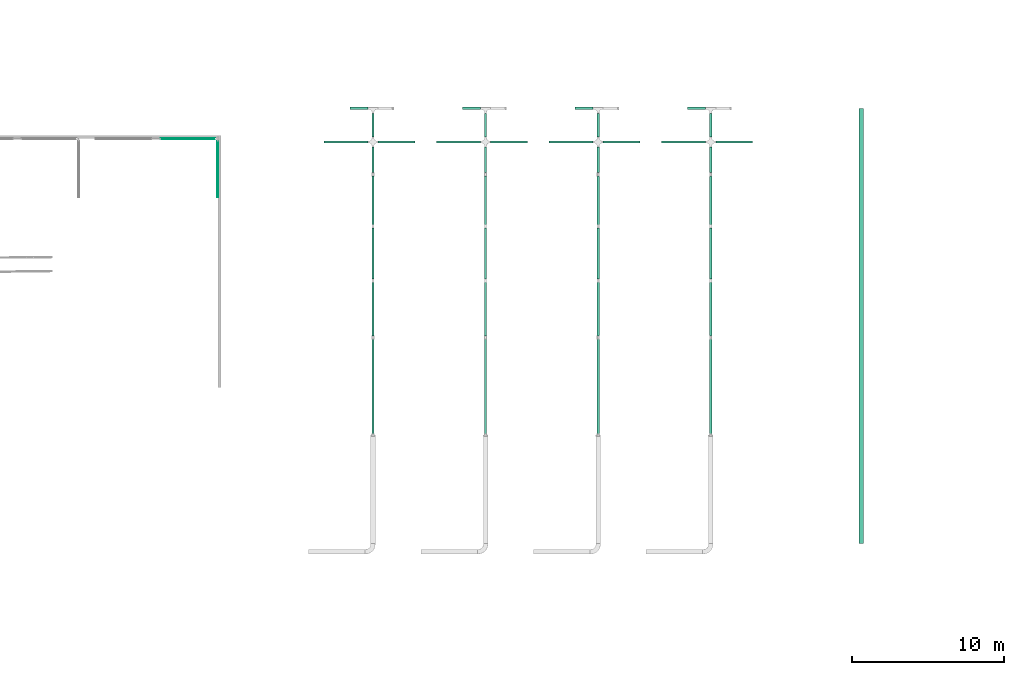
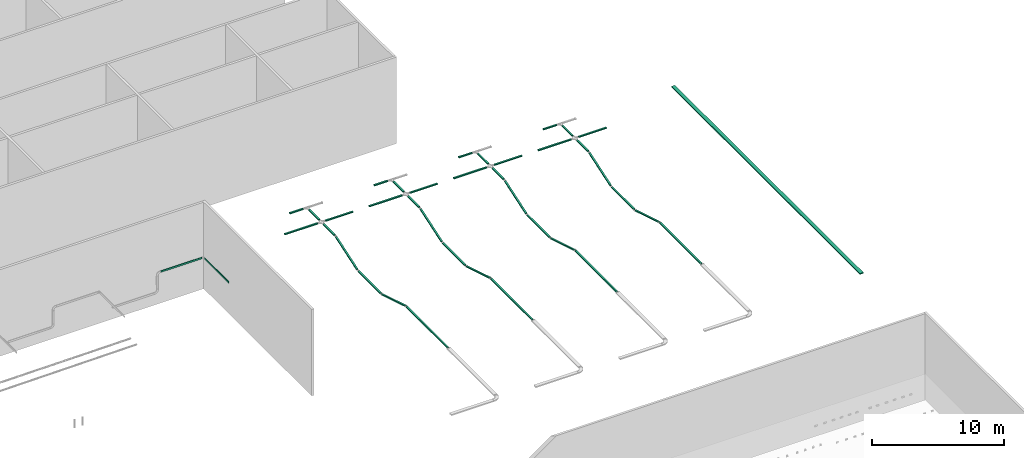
# One storey, part 13 of 197: 39 flow segments.
"""IFC2X3 building model written with IfcOpenShell, lengths in metres."""

from ifc_helpers import new_model, entity, si_unit, converted_unit, direction, frame, frame_2d, origin, origin_2d_with_axis, place, context, subcontext, project, spatial, rectangle, extrude, type_object, element, save


model = new_model("IFC2X3")

# Units and contexts
model_context = context("Model", 3, precision=1e-05, world=origin(), true_north=direction((6.123031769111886e-17, 1.0)))
body_context = subcontext(model_context, "Body", "Model", "MODEL_VIEW")
ifc_project = project(units=[si_unit("LENGTHUNIT", "METRE"), converted_unit("PLANEANGLEUNIT", "DEGREE", entity("IfcPlaneAngleMeasure", 0.017453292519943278), si_unit("PLANEANGLEUNIT", "RADIAN"), dimensions=[0, 0, 0, 0, 0, 0, 0]), si_unit("AREAUNIT", "SQUARE_METRE")], contexts=[model_context])

# Site, building, storey
site_placement = place(None, origin())
site = spatial("IfcSite", under=ifc_project, at=site_placement, Name="Default", CompositionType="ELEMENT")
building_placement = place(site_placement, origin())
building = spatial("IfcBuilding", under=site, at=building_placement, CompositionType="ELEMENT")
storey_placement = place(building_placement, origin())
storey = spatial("IfcBuildingStorey", under=building, at=storey_placement, Name="Niveau 0", CompositionType="ELEMENT", Elevation=0.0)

# Flow segments
cable_carrier_segment_type_1 = type_object("IfcCableCarrierSegmentType", Name="Chemin de câbles avec raccords:CDC CFA", PredefinedType="CABLETRAYSEGMENT")
flow_segment_1_placement = place(storey_placement, origin())
element("IfcFlowSegment", 1, at=flow_segment_1_placement, inside=storey, type_object=cable_carrier_segment_type_1, Name="Chemin de câbles avec raccords:CDC CFA", ObjectType="Chemin de câbles avec raccords:CDC CFA", context=body_context, shape_type="SweptSolid", body=[
    extrude(rectangle(XDim=6.217109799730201, YDim=0.14999999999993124, at=frame_2d((8.659739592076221e-15, 0.0), x_axis=(1.0, 0.0))), frame((-510.12398006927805, 135.57606798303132, 2.700000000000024), z_axis=(0.0, 0.0, 1.0), x_axis=(0.0, 1.0, 0.0)), (0.0, 0.0, 1.0), 0.1),
])
flow_segment_2_placement = place(storey_placement, origin())
element("IfcFlowSegment", 2, at=flow_segment_2_placement, inside=storey, type_object=cable_carrier_segment_type_1, Name="Chemin de câbles avec raccords:CDC CFA", ObjectType="Chemin de câbles avec raccords:CDC CFA", context=body_context, shape_type="SweptSolid", body=[
    extrude(rectangle(XDim=0.09999999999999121, YDim=3.6792195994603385, at=frame_2d((1.1102230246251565e-16, -2.706168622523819e-16), x_axis=(0.0, 1.0))), frame((-510.19898006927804, 140.64904768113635, 2.181483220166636), z_axis=(1.0, 0.0, 0.0), x_axis=(0.0, 0.9563047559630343, -0.29237170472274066)), (0.0, 0.0, 1.0), 0.14999999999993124),
])
flow_segment_3_placement = place(storey_placement, origin())
element("IfcFlowSegment", 3, at=flow_segment_3_placement, inside=storey, type_object=cable_carrier_segment_type_1, Name="Chemin de câbles avec raccords:CDC CFA", ObjectType="Chemin de câbles avec raccords:CDC CFA", context=body_context, shape_type="SweptSolid", body=[
    extrude(rectangle(XDim=3.3785376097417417, YDim=0.14999999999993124, at=frame_2d((1.7319479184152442e-14, 0.0), x_axis=(1.0, 0.0))), frame((-510.12398006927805, 144.30274128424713, 1.562966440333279), z_axis=(0.0, 0.0, 1.0), x_axis=(0.0, 1.0, 0.0)), (0.0, 0.0, 1.0), 0.1),
])
flow_segment_4_placement = place(storey_placement, origin())
element("IfcFlowSegment", 4, at=flow_segment_4_placement, inside=storey, type_object=cable_carrier_segment_type_1, Name="Chemin de câbles avec raccords:CDC CFA", ObjectType="Chemin de câbles avec raccords:CDC CFA", context=body_context, shape_type="SweptSolid", body=[
    extrude(rectangle(XDim=0.09999999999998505, YDim=3.3682557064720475, at=frame_2d((-1.1102230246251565e-16, -1.3530843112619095e-16), x_axis=(0.0, 1.0))), frame((-510.19898006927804, 147.79869313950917, 2.1814832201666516), z_axis=(1.0, 0.0, 0.0), x_axis=(0.0, 0.9483232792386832, 0.3173057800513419)), (0.0, 0.0, 1.0), 0.14999999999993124),
])
flow_segment_5_placement = place(storey_placement, origin())
element("IfcFlowSegment", 5, at=flow_segment_5_placement, inside=storey, type_object=cable_carrier_segment_type_1, Name="Chemin de câbles avec raccords:CDC CFA", ObjectType="Chemin de câbles avec raccords:CDC CFA", context=body_context, shape_type="SweptSolid", body=[
    extrude(rectangle(XDim=1.5359999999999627, YDim=0.14999999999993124, at=origin_2d_with_axis()), frame((-510.12398006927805, 152.72191437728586, 2.6999999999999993), z_axis=(0.0, 0.0, 1.0), x_axis=(0.0, 1.0, 0.0)), (0.0, 0.0, 1.0), 0.1),
])
flow_segment_6_placement = place(storey_placement, origin())
element("IfcFlowSegment", 6, at=flow_segment_6_placement, inside=storey, type_object=cable_carrier_segment_type_1, Name="Chemin de câbles avec raccords:CDC CFA", ObjectType="Chemin de câbles avec raccords:CDC CFA", context=body_context, shape_type="SweptSolid", body=[
    extrude(rectangle(XDim=2.409722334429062, YDim=0.15000000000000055, at=origin_2d_with_axis()), frame((-508.58411890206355, 151.61891437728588, 2.7)), (0.0, 0.0, 1.0), 0.1),
])
flow_segment_7_placement = place(storey_placement, origin())
element("IfcFlowSegment", 7, at=flow_segment_7_placement, inside=storey, type_object=cable_carrier_segment_type_1, Name="Chemin de câbles avec raccords:CDC CFA", ObjectType="Chemin de câbles avec raccords:CDC CFA", context=body_context, shape_type="SweptSolid", body=[
    extrude(rectangle(XDim=2.887277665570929, YDim=0.15000000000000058, at=frame_2d((-3.4638958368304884e-14, -1.732641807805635e-14), x_axis=(1.0, 0.0))), frame((-511.9026189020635, 151.6189143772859, 2.7)), (0.0, 0.0, 1.0), 0.1),
])
flow_segment_8_placement = place(storey_placement, origin())
element("IfcFlowSegment", 8, at=flow_segment_8_placement, inside=storey, type_object=cable_carrier_segment_type_1, Name="Chemin de câbles avec raccords:CDC CFA", ObjectType="Chemin de câbles avec raccords:CDC CFA", context=body_context, shape_type="SweptSolid", body=[
    extrude(rectangle(XDim=1.678538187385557, YDim=0.14999999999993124, at=origin_2d_with_axis()), frame((-510.12398006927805, 150.44464528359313, 2.700000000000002), z_axis=(0.0, 0.0, 1.0), x_axis=(0.0, 1.0, 0.0)), (0.0, 0.0, 1.0), 0.1),
])
flow_segment_9_placement = place(storey_placement, origin())
element("IfcFlowSegment", 9, at=flow_segment_9_placement, inside=storey, type_object=cable_carrier_segment_type_1, Name="Chemin de câbles avec raccords:CDC CFA", ObjectType="Chemin de câbles avec raccords:CDC CFA", context=body_context, shape_type="SweptSolid", body=[
    extrude(rectangle(XDim=1.1850000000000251, YDim=0.15000000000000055, at=origin_2d_with_axis()), frame((-511.05148006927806, 153.82491437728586, 2.7000000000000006), z_axis=(0.0, 0.0, 1.0), x_axis=(-1.0, 0.0, 0.0)), (0.0, 0.0, 1.0), 0.1),
])
cable_carrier_segment_type_2 = type_object("IfcCableCarrierSegmentType", Name="Chemin de câbles avec raccords:CDC CFO", PredefinedType="CABLETRAYSEGMENT")
flow_segment_10_placement = place(storey_placement, origin())
element("IfcFlowSegment", 10, at=flow_segment_10_placement, inside=storey, type_object=cable_carrier_segment_type_2, Name="Chemin de câbles avec raccords:CDC CFO", ObjectType="Chemin de câbles avec raccords:CDC CFO", context=body_context, shape_type="SweptSolid", body=[
    extrude(rectangle(XDim=6.217109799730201, YDim=0.14999999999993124, at=frame_2d((8.659739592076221e-15, 6.93056723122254e-14), x_axis=(1.0, 0.0))), frame((-502.7369800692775, 135.57606798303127, 2.700000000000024), z_axis=(0.0, 0.0, 1.0), x_axis=(0.0, 1.0, 0.0)), (0.0, 0.0, 1.0), 0.1),
])
flow_segment_11_placement = place(storey_placement, origin())
element("IfcFlowSegment", 11, at=flow_segment_11_placement, inside=storey, type_object=cable_carrier_segment_type_2, Name="Chemin de câbles avec raccords:CDC CFO", ObjectType="Chemin de câbles avec raccords:CDC CFO", context=body_context, shape_type="SweptSolid", body=[
    extrude(rectangle(XDim=0.09999999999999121, YDim=3.6792195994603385, at=frame_2d((1.1102230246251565e-16, -2.706168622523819e-16), x_axis=(0.0, 1.0))), frame((-502.81198006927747, 140.64904768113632, 2.181483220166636), z_axis=(1.0, 0.0, 0.0), x_axis=(0.0, 0.9563047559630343, -0.29237170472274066)), (0.0, 0.0, 1.0), 0.14999999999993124),
])
flow_segment_12_placement = place(storey_placement, origin())
element("IfcFlowSegment", 12, at=flow_segment_12_placement, inside=storey, type_object=cable_carrier_segment_type_2, Name="Chemin de câbles avec raccords:CDC CFO", ObjectType="Chemin de câbles avec raccords:CDC CFO", context=body_context, shape_type="SweptSolid", body=[
    extrude(rectangle(XDim=3.3785376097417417, YDim=0.14999999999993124, at=frame_2d((0.0, 6.93056723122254e-14), x_axis=(1.0, 0.0))), frame((-502.7369800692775, 144.30274128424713, 1.562966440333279), z_axis=(0.0, 0.0, 1.0), x_axis=(0.0, 1.0, 0.0)), (0.0, 0.0, 1.0), 0.1),
])
flow_segment_13_placement = place(storey_placement, origin())
element("IfcFlowSegment", 13, at=flow_segment_13_placement, inside=storey, type_object=cable_carrier_segment_type_2, Name="Chemin de câbles avec raccords:CDC CFO", ObjectType="Chemin de câbles avec raccords:CDC CFO", context=body_context, shape_type="SweptSolid", body=[
    extrude(rectangle(XDim=0.09999999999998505, YDim=3.3682557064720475, at=frame_2d((-1.1102230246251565e-16, -1.3530843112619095e-16), x_axis=(0.0, 1.0))), frame((-502.81198006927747, 147.79869313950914, 2.1814832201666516), z_axis=(1.0, 0.0, 0.0), x_axis=(0.0, 0.9483232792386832, 0.3173057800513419)), (0.0, 0.0, 1.0), 0.14999999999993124),
])
flow_segment_14_placement = place(storey_placement, origin())
element("IfcFlowSegment", 14, at=flow_segment_14_placement, inside=storey, type_object=cable_carrier_segment_type_2, Name="Chemin de câbles avec raccords:CDC CFO", ObjectType="Chemin de câbles avec raccords:CDC CFO", context=body_context, shape_type="SweptSolid", body=[
    extrude(rectangle(XDim=1.5359999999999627, YDim=0.14999999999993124, at=frame_2d((1.7319479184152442e-14, 6.93056723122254e-14), x_axis=(1.0, 0.0))), frame((-502.7369800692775, 152.72191437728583, 2.6999999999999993), z_axis=(0.0, 0.0, 1.0), x_axis=(0.0, 1.0, 0.0)), (0.0, 0.0, 1.0), 0.1),
])
flow_segment_15_placement = place(storey_placement, origin())
element("IfcFlowSegment", 15, at=flow_segment_15_placement, inside=storey, type_object=cable_carrier_segment_type_2, Name="Chemin de câbles avec raccords:CDC CFO", ObjectType="Chemin de câbles avec raccords:CDC CFO", context=body_context, shape_type="SweptSolid", body=[
    extrude(rectangle(XDim=2.409722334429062, YDim=0.15000000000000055, at=origin_2d_with_axis()), frame((-501.19711890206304, 151.61891437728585, 2.7)), (0.0, 0.0, 1.0), 0.1),
])
flow_segment_16_placement = place(storey_placement, origin())
element("IfcFlowSegment", 16, at=flow_segment_16_placement, inside=storey, type_object=cable_carrier_segment_type_2, Name="Chemin de câbles avec raccords:CDC CFO", ObjectType="Chemin de câbles avec raccords:CDC CFO", context=body_context, shape_type="SweptSolid", body=[
    extrude(rectangle(XDim=2.887277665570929, YDim=0.15000000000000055, at=frame_2d((-3.4638958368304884e-14, 0.0), x_axis=(1.0, 0.0))), frame((-504.515618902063, 151.61891437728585, 2.7)), (0.0, 0.0, 1.0), 0.1),
])
flow_segment_17_placement = place(storey_placement, origin())
element("IfcFlowSegment", 17, at=flow_segment_17_placement, inside=storey, type_object=cable_carrier_segment_type_2, Name="Chemin de câbles avec raccords:CDC CFO", ObjectType="Chemin de câbles avec raccords:CDC CFO", context=body_context, shape_type="SweptSolid", body=[
    extrude(rectangle(XDim=1.678538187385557, YDim=0.14999999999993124, at=frame_2d((0.0, 6.93056723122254e-14), x_axis=(1.0, 0.0))), frame((-502.7369800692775, 150.44464528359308, 2.700000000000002), z_axis=(0.0, 0.0, 1.0), x_axis=(0.0, 1.0, 0.0)), (0.0, 0.0, 1.0), 0.1),
])
flow_segment_18_placement = place(storey_placement, origin())
element("IfcFlowSegment", 18, at=flow_segment_18_placement, inside=storey, type_object=cable_carrier_segment_type_2, Name="Chemin de câbles avec raccords:CDC CFO", ObjectType="Chemin de câbles avec raccords:CDC CFO", context=body_context, shape_type="SweptSolid", body=[
    extrude(rectangle(XDim=1.1850000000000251, YDim=0.15000000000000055, at=frame_2d((6.927791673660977e-14, 0.0), x_axis=(1.0, 0.0))), frame((-503.66448006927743, 153.82491437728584, 2.7000000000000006), z_axis=(0.0, 0.0, 1.0), x_axis=(-1.0, 0.0, 0.0)), (0.0, 0.0, 1.0), 0.1),
])
cable_carrier_segment_type_3 = type_object("IfcCableCarrierSegmentType", Name="Chemin de câbles avec raccords:CDC INCENDIE", PredefinedType="CABLETRAYSEGMENT")
flow_segment_19_placement = place(storey_placement, origin())
element("IfcFlowSegment", 19, at=flow_segment_19_placement, inside=storey, type_object=cable_carrier_segment_type_3, Name="Chemin de câbles avec raccords:CDC INCENDIE", ObjectType="Chemin de câbles avec raccords:CDC INCENDIE", context=body_context, shape_type="SweptSolid", body=[
    extrude(rectangle(XDim=6.217109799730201, YDim=0.14999999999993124, at=frame_2d((-8.659739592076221e-15, 0.0), x_axis=(1.0, 0.0))), frame((-495.349980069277, 135.57606798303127, 2.700000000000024), z_axis=(0.0, 0.0, 1.0), x_axis=(0.0, 1.0, 0.0)), (0.0, 0.0, 1.0), 0.1),
])
flow_segment_20_placement = place(storey_placement, origin())
element("IfcFlowSegment", 20, at=flow_segment_20_placement, inside=storey, type_object=cable_carrier_segment_type_3, Name="Chemin de câbles avec raccords:CDC INCENDIE", ObjectType="Chemin de câbles avec raccords:CDC INCENDIE", context=body_context, shape_type="SweptSolid", body=[
    extrude(rectangle(XDim=0.09999999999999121, YDim=3.6792195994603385, at=frame_2d((1.1102230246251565e-16, -2.706168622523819e-16), x_axis=(0.0, 1.0))), frame((-495.42498006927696, 140.6490476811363, 2.181483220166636), z_axis=(1.0, 0.0, 0.0), x_axis=(0.0, 0.9563047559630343, -0.29237170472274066)), (0.0, 0.0, 1.0), 0.14999999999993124),
])
flow_segment_21_placement = place(storey_placement, origin())
element("IfcFlowSegment", 21, at=flow_segment_21_placement, inside=storey, type_object=cable_carrier_segment_type_3, Name="Chemin de câbles avec raccords:CDC INCENDIE", ObjectType="Chemin de câbles avec raccords:CDC INCENDIE", context=body_context, shape_type="SweptSolid", body=[
    extrude(rectangle(XDim=3.3785376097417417, YDim=0.14999999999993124, at=origin_2d_with_axis()), frame((-495.349980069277, 144.30274128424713, 1.562966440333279), z_axis=(0.0, 0.0, 1.0), x_axis=(0.0, 1.0, 0.0)), (0.0, 0.0, 1.0), 0.1),
])
flow_segment_22_placement = place(storey_placement, origin())
element("IfcFlowSegment", 22, at=flow_segment_22_placement, inside=storey, type_object=cable_carrier_segment_type_3, Name="Chemin de câbles avec raccords:CDC INCENDIE", ObjectType="Chemin de câbles avec raccords:CDC INCENDIE", context=body_context, shape_type="SweptSolid", body=[
    extrude(rectangle(XDim=0.09999999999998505, YDim=3.3682557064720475, at=frame_2d((-1.1102230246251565e-16, -1.3530843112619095e-16), x_axis=(0.0, 1.0))), frame((-495.42498006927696, 147.79869313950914, 2.1814832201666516), z_axis=(1.0, 0.0, 0.0), x_axis=(0.0, 0.9483232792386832, 0.3173057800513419)), (0.0, 0.0, 1.0), 0.14999999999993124),
])
flow_segment_23_placement = place(storey_placement, origin())
element("IfcFlowSegment", 23, at=flow_segment_23_placement, inside=storey, type_object=cable_carrier_segment_type_3, Name="Chemin de câbles avec raccords:CDC INCENDIE", ObjectType="Chemin de câbles avec raccords:CDC INCENDIE", context=body_context, shape_type="SweptSolid", body=[
    extrude(rectangle(XDim=1.5359999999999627, YDim=0.14999999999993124, at=frame_2d((1.7319479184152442e-14, 0.0), x_axis=(1.0, 0.0))), frame((-495.349980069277, 152.72191437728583, 2.6999999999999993), z_axis=(0.0, 0.0, 1.0), x_axis=(0.0, 1.0, 0.0)), (0.0, 0.0, 1.0), 0.1),
])
flow_segment_24_placement = place(storey_placement, origin())
element("IfcFlowSegment", 24, at=flow_segment_24_placement, inside=storey, type_object=cable_carrier_segment_type_3, Name="Chemin de câbles avec raccords:CDC INCENDIE", ObjectType="Chemin de câbles avec raccords:CDC INCENDIE", context=body_context, shape_type="SweptSolid", body=[
    extrude(rectangle(XDim=2.409722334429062, YDim=0.15000000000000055, at=origin_2d_with_axis()), frame((-493.8101189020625, 151.61891437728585, 2.7)), (0.0, 0.0, 1.0), 0.1),
])
flow_segment_25_placement = place(storey_placement, origin())
element("IfcFlowSegment", 25, at=flow_segment_25_placement, inside=storey, type_object=cable_carrier_segment_type_3, Name="Chemin de câbles avec raccords:CDC INCENDIE", ObjectType="Chemin de câbles avec raccords:CDC INCENDIE", context=body_context, shape_type="SweptSolid", body=[
    extrude(rectangle(XDim=2.887277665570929, YDim=0.15000000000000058, at=frame_2d((3.4638958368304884e-14, 1.732641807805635e-14), x_axis=(1.0, 0.0))), frame((-497.12861890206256, 151.6189143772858, 2.7)), (0.0, 0.0, 1.0), 0.1),
])
flow_segment_26_placement = place(storey_placement, origin())
element("IfcFlowSegment", 26, at=flow_segment_26_placement, inside=storey, type_object=cable_carrier_segment_type_3, Name="Chemin de câbles avec raccords:CDC INCENDIE", ObjectType="Chemin de câbles avec raccords:CDC INCENDIE", context=body_context, shape_type="SweptSolid", body=[
    extrude(rectangle(XDim=1.678538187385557, YDim=0.14999999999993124, at=origin_2d_with_axis()), frame((-495.349980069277, 150.44464528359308, 2.700000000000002), z_axis=(0.0, 0.0, 1.0), x_axis=(0.0, 1.0, 0.0)), (0.0, 0.0, 1.0), 0.1),
])
flow_segment_27_placement = place(storey_placement, origin())
element("IfcFlowSegment", 27, at=flow_segment_27_placement, inside=storey, type_object=cable_carrier_segment_type_3, Name="Chemin de câbles avec raccords:CDC INCENDIE", ObjectType="Chemin de câbles avec raccords:CDC INCENDIE", context=body_context, shape_type="SweptSolid", body=[
    extrude(rectangle(XDim=1.1850000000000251, YDim=0.15000000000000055, at=origin_2d_with_axis()), frame((-496.277480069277, 153.82491437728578, 2.7000000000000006), z_axis=(0.0, 0.0, 1.0), x_axis=(-1.0, 0.0, 0.0)), (0.0, 0.0, 1.0), 0.1),
])
cable_carrier_segment_type_4 = type_object("IfcCableCarrierSegmentType", Name="Chemin de câbles avec raccords:CDC ENEDIS", PredefinedType="CABLETRAYSEGMENT")
flow_segment_28_placement = place(storey_placement, origin())
element("IfcFlowSegment", 28, at=flow_segment_28_placement, inside=storey, type_object=cable_carrier_segment_type_4, Name="Chemin de câbles avec raccords:CDC ENEDIS", ObjectType="Chemin de câbles avec raccords:CDC ENEDIS", context=body_context, shape_type="SweptSolid", body=[
    extrude(rectangle(XDim=6.217109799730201, YDim=0.14999999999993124, at=frame_2d((-8.659739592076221e-15, 0.0), x_axis=(1.0, 0.0))), frame((-487.9629800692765, 135.57606798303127, 2.700000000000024), z_axis=(0.0, 0.0, 1.0), x_axis=(0.0, 1.0, 0.0)), (0.0, 0.0, 1.0), 0.1),
])
flow_segment_29_placement = place(storey_placement, origin())
element("IfcFlowSegment", 29, at=flow_segment_29_placement, inside=storey, type_object=cable_carrier_segment_type_4, Name="Chemin de câbles avec raccords:CDC ENEDIS", ObjectType="Chemin de câbles avec raccords:CDC ENEDIS", context=body_context, shape_type="SweptSolid", body=[
    extrude(rectangle(XDim=0.09999999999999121, YDim=3.6792195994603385, at=frame_2d((1.1102230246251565e-16, -2.706168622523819e-16), x_axis=(0.0, 1.0))), frame((-488.03798006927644, 140.6490476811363, 2.181483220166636), z_axis=(1.0, 0.0, 0.0), x_axis=(0.0, 0.9563047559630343, -0.29237170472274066)), (0.0, 0.0, 1.0), 0.14999999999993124),
])
flow_segment_30_placement = place(storey_placement, origin())
element("IfcFlowSegment", 30, at=flow_segment_30_placement, inside=storey, type_object=cable_carrier_segment_type_4, Name="Chemin de câbles avec raccords:CDC ENEDIS", ObjectType="Chemin de câbles avec raccords:CDC ENEDIS", context=body_context, shape_type="SweptSolid", body=[
    extrude(rectangle(XDim=3.3785376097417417, YDim=0.14999999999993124, at=origin_2d_with_axis()), frame((-487.9629800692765, 144.30274128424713, 1.562966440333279), z_axis=(0.0, 0.0, 1.0), x_axis=(0.0, 1.0, 0.0)), (0.0, 0.0, 1.0), 0.1),
])
flow_segment_31_placement = place(storey_placement, origin())
element("IfcFlowSegment", 31, at=flow_segment_31_placement, inside=storey, type_object=cable_carrier_segment_type_4, Name="Chemin de câbles avec raccords:CDC ENEDIS", ObjectType="Chemin de câbles avec raccords:CDC ENEDIS", context=body_context, shape_type="SweptSolid", body=[
    extrude(rectangle(XDim=0.09999999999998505, YDim=3.3682557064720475, at=frame_2d((-1.1102230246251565e-16, -1.3530843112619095e-16), x_axis=(0.0, 1.0))), frame((-488.03798006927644, 147.79869313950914, 2.1814832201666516), z_axis=(1.0, 0.0, 0.0), x_axis=(0.0, 0.9483232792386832, 0.3173057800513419)), (0.0, 0.0, 1.0), 0.14999999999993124),
])
flow_segment_32_placement = place(storey_placement, origin())
element("IfcFlowSegment", 32, at=flow_segment_32_placement, inside=storey, type_object=cable_carrier_segment_type_4, Name="Chemin de câbles avec raccords:CDC ENEDIS", ObjectType="Chemin de câbles avec raccords:CDC ENEDIS", context=body_context, shape_type="SweptSolid", body=[
    extrude(rectangle(XDim=1.5359999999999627, YDim=0.14999999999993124, at=frame_2d((1.7319479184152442e-14, 0.0), x_axis=(1.0, 0.0))), frame((-487.9629800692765, 152.72191437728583, 2.6999999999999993), z_axis=(0.0, 0.0, 1.0), x_axis=(0.0, 1.0, 0.0)), (0.0, 0.0, 1.0), 0.1),
])
flow_segment_33_placement = place(storey_placement, origin())
element("IfcFlowSegment", 33, at=flow_segment_33_placement, inside=storey, type_object=cable_carrier_segment_type_4, Name="Chemin de câbles avec raccords:CDC ENEDIS", ObjectType="Chemin de câbles avec raccords:CDC ENEDIS", context=body_context, shape_type="SweptSolid", body=[
    extrude(rectangle(XDim=2.409722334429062, YDim=0.15000000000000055, at=origin_2d_with_axis()), frame((-486.42311890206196, 151.61891437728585, 2.7)), (0.0, 0.0, 1.0), 0.1),
])
flow_segment_34_placement = place(storey_placement, origin())
element("IfcFlowSegment", 34, at=flow_segment_34_placement, inside=storey, type_object=cable_carrier_segment_type_4, Name="Chemin de câbles avec raccords:CDC ENEDIS", ObjectType="Chemin de câbles avec raccords:CDC ENEDIS", context=body_context, shape_type="SweptSolid", body=[
    extrude(rectangle(XDim=2.887277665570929, YDim=0.15000000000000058, at=frame_2d((-3.4638958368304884e-14, 1.732641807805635e-14), x_axis=(1.0, 0.0))), frame((-489.741618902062, 151.6189143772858, 2.7)), (0.0, 0.0, 1.0), 0.1),
])
flow_segment_35_placement = place(storey_placement, origin())
element("IfcFlowSegment", 35, at=flow_segment_35_placement, inside=storey, type_object=cable_carrier_segment_type_4, Name="Chemin de câbles avec raccords:CDC ENEDIS", ObjectType="Chemin de câbles avec raccords:CDC ENEDIS", context=body_context, shape_type="SweptSolid", body=[
    extrude(rectangle(XDim=1.678538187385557, YDim=0.14999999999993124, at=origin_2d_with_axis()), frame((-487.9629800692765, 150.44464528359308, 2.700000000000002), z_axis=(0.0, 0.0, 1.0), x_axis=(0.0, 1.0, 0.0)), (0.0, 0.0, 1.0), 0.1),
])
flow_segment_36_placement = place(storey_placement, origin())
element("IfcFlowSegment", 36, at=flow_segment_36_placement, inside=storey, type_object=cable_carrier_segment_type_4, Name="Chemin de câbles avec raccords:CDC ENEDIS", ObjectType="Chemin de câbles avec raccords:CDC ENEDIS", context=body_context, shape_type="SweptSolid", body=[
    extrude(rectangle(XDim=1.1850000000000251, YDim=0.15000000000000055, at=origin_2d_with_axis()), frame((-488.89048006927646, 153.82491437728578, 2.7000000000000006), z_axis=(0.0, 0.0, 1.0), x_axis=(-1.0, 0.0, 0.0)), (0.0, 0.0, 1.0), 0.1),
])
cable_carrier_segment_type_5 = type_object("IfcCableCarrierSegmentType", Name="Chemin de câbles avec raccords:GOULOTTE", PredefinedType="CABLETRAYSEGMENT")
flow_segment_37_placement = place(storey_placement, origin())
element("IfcFlowSegment", 37, at=flow_segment_37_placement, inside=storey, type_object=cable_carrier_segment_type_5, Name="Chemin de câbles avec raccords:GOULOTTE", ObjectType="Chemin de câbles avec raccords:GOULOTTE", context=body_context, shape_type="SweptSolid", body=[
    extrude(rectangle(XDim=3.5918589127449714, YDim=0.04999999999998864, at=origin_2d_with_axis()), frame((-522.2655245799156, 151.82535524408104, 2.8507853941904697)), (0.0, 0.0, 1.0), 0.15000000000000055),
])
flow_segment_38_placement = place(storey_placement, origin())
element("IfcFlowSegment", 38, at=flow_segment_38_placement, inside=storey, type_object=cable_carrier_segment_type_5, Name="Chemin de câbles avec raccords:GOULOTTE", ObjectType="Chemin de câbles avec raccords:GOULOTTE", context=body_context, shape_type="SweptSolid", body=[
    extrude(rectangle(XDim=3.6711697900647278, YDim=0.05000000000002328, at=frame_2d((-8.659739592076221e-15, 0.0), x_axis=(1.0, 0.0))), frame((-520.3145951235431, 149.83477034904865, 2.850785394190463), z_axis=(0.0, 0.0, 1.0), x_axis=(0.0, -1.0, 0.0)), (0.0, 0.0, 1.0), 0.15000000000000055),
])
cable_carrier_segment_type_6 = type_object("IfcCableCarrierSegmentType", Name="Chemin de câbles avec raccords:GAINE A BARRES", PredefinedType="CABLETRAYSEGMENT")
flow_segment_39_placement = place(storey_placement, origin())
element("IfcFlowSegment", 39, at=flow_segment_39_placement, inside=storey, type_object=cable_carrier_segment_type_6, Name="Chemin de câbles avec raccords:GAINE A BARRES", ObjectType="Chemin de câbles avec raccords:GAINE A BARRES", context=body_context, shape_type="SweptSolid", body=[
    extrude(rectangle(XDim=28.549401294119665, YDim=0.3000000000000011, at=frame_2d((-8.881784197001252e-15, 0.0), x_axis=(1.0, 0.0))), frame((-478.0909800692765, 139.55021373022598, 2.7), z_axis=(0.0, 0.0, 1.0), x_axis=(0.0, 1.0, 0.0)), (0.0, 0.0, 1.0), 0.1),
])

save(model, "model.ifc")
